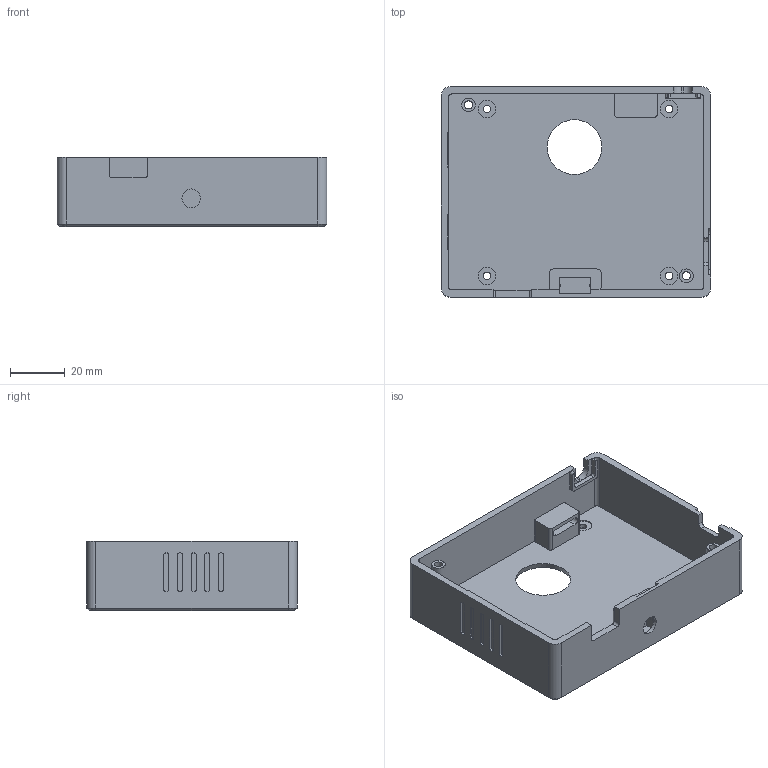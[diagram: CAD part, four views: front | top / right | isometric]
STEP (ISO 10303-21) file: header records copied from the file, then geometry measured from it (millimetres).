
FILE_DESCRIPTION(('Open CASCADE Model'),'2;1');
FILE_NAME('Open CASCADE Shape Model','2026-11-28T16:01:10',('Author'),( 'Open CASCADE'),'Open CASCADE STEP processor 8.0','build123d', 'Unknown');
FILE_SCHEMA(('AUTOMOTIVE_DESIGN { 1 0 10303 214 1 1 1 1 }'));
Length unit declared in the file: millimetre
Products named in the file (2): =>[0:1:1:2]; SOLID
Assembly tree (1 placements, depth 2):
  =>[0:1:1:2]
    SOLID
Bounding box: 98.4 x 76.8 x 25.4 mm (x, y, z)
Volume: 44142.3 mm3; surface area: 32849.5 mm2
Topology: 1 solids, 1 shells, 258 faces, 674 edges, 442 vertices
Faces by surface type: plane 147, cylinder 75, bspline 25, cone 11
Full cylindrical faces by diameter (mm): 1 x1, 2.8 x4, 3 x3, 5 x3, 6.4 x4, 6.8 x2, 7 x1, 9 x1
Entity records: 17509 total; most frequent: CARTESIAN_POINT 4659, DIRECTION 2165, ORIENTED_EDGE 1348, PCURVE 1348, DEFINITIONAL_REPRESENTATION 1348, LINE 1238, VECTOR 1238, EDGE_CURVE 674
